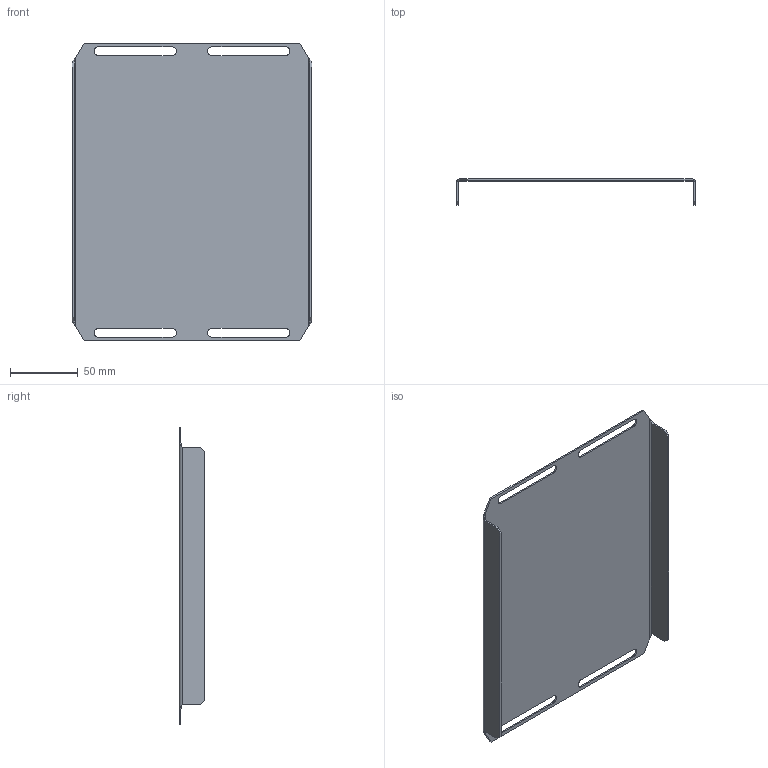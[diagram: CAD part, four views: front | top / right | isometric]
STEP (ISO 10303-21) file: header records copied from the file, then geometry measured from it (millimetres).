
FILE_DESCRIPTION (( 'STEP AP203' ), '1' );
FILE_NAME ('PKV 40 SH Ïàíåëü ñòàöèîíàðíàÿ.STEP', '2021-05-17T06:30:34', ( '' ), ( '' ), 'SwSTEP 2.0', 'SolidWorks 2018', '' );
FILE_SCHEMA (( 'CONFIG_CONTROL_DESIGN' ));
Length unit declared in the file: millimetre
Products named in the file (1): PKV 40 SH Ïàíåëü ñòàöèîíàðíàÿ
Bounding box: 177 x 19 x 220.5 mm (x, y, z)
Volume: 52458.4 mm3; surface area: 89048.4 mm2
Topology: 1 solids, 1 shells, 46 faces, 116 edges, 72 vertices
Faces by surface type: plane 30, cylinder 12, bspline 4
Entity records: 1561 total; most frequent: CARTESIAN_POINT 399, ORIENTED_EDGE 232, DIRECTION 202, EDGE_CURVE 116, VECTOR 84, LINE 84, VERTEX_POINT 72, AXIS2_PLACEMENT_3D 59
